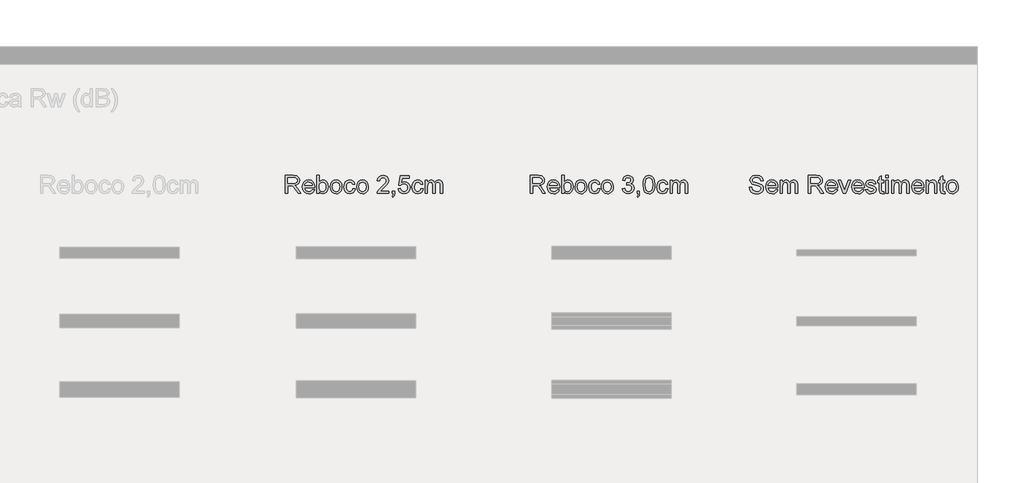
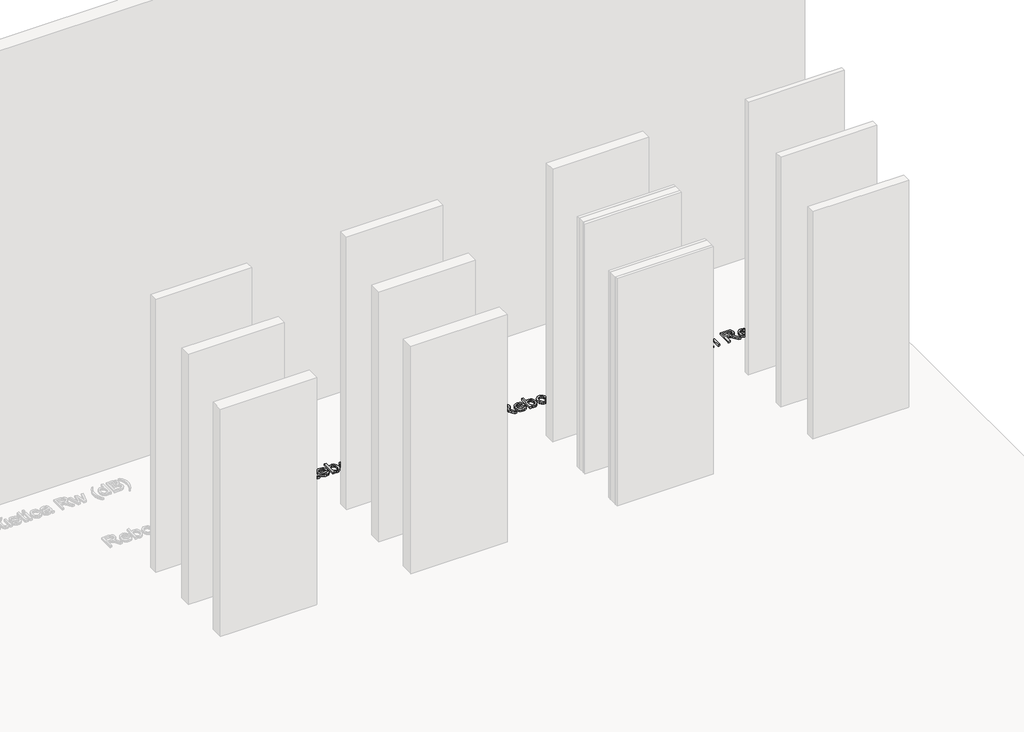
# One storey, part 26 of 26: 3 proxies.
"""IFC4 building model written with IfcOpenShell, lengths in millimetres."""

from ifc_helpers import new_model, si_unit, origin, origin_with_axes, place, context, project, spatial, polyline, outline, extrude, element, save

model = new_model("IFC4")

# Units and contexts
model_context = context("Model", 3, world=origin())
ifc_project = project(units=[si_unit("LENGTHUNIT", "METRE", prefix="MILLI")], contexts=[model_context])

# Site, building, storey
site = spatial("IfcSite", under=ifc_project)
building = spatial("IfcBuilding", under=site)
storey = spatial("IfcBuildingStorey", under=building, Name="Catálogo Celucon", Elevation=0.0)

# Proxies
placement = place(None, origin())
element("IfcBuildingElementProxy", 1, Name="Legenda Tabela de Módulos", ObjectType="Legenda Tabela de Módulos", at=placement, inside=storey, context=model_context, shape_type="SweptSolid", body=[
    extrude(outline(polyline([(16458.7723044, 1127.4713313), (16458.7723044, 1278.1557966), (16523.7034766, 1278.1557966), (16553.8514061, 1274.0907005), (16563.1312294, 1268.462106), (16570.3325195, 1259.7065145), (16574.954037, 1248.8493971), (16576.4945429, 1236.9162249), (16573.9423616, 1222.0721864), (16566.2858175, 1209.7665337), (16553.2949846, 1200.7442277), (16534.7399364, 1195.7502297), (16545.4453025, 1187.693614), (16560.7124053, 1168.3062328), (16585.8387456, 1127.4713313), (16563.9497669, 1127.4713313), (16544.3416565, 1158.7045127), (16530.1781997, 1179.3794809), (16520.2269917, 1189.1467478), (16511.2690651, 1192.7335973), (16500.3429699, 1193.3957849), (16477.6078626, 1193.3957849), (16477.6078626, 1127.4713313), (16458.7723044, 1127.4713313)]), holes=[polyline([(16477.6078626, 1212.231343), (16519.7671392, 1212.231343), (16541.2698419, 1214.8984875), (16553.4835241, 1223.4333498), (16557.6589847, 1236.2172491), (16555.6678234, 1245.405102), (16549.6943395, 1252.8087271), (16539.4166363, 1257.6923606), (16524.512817, 1259.3202384), (16477.6078626, 1259.3202384), (16477.6078626, 1212.231343)])]), origin_with_axes(), (0.0, 0.0, 1.0), 20.0),
    extrude(outline(polyline([(16684.5782731, 1160.4335581), (16703.0459492, 1158.0791133), (16696.3918836, 1144.1639769), (16685.7738896, 1133.7621135), (16671.4310903, 1127.2781933), (16653.6026091, 1125.1168866), (16631.5020982, 1128.8462903), (16614.496753, 1140.0345015), (16603.6534312, 1157.9549532), (16600.0389906, 1181.8810784), (16603.6902194, 1206.6119456), (16614.6439058, 1225.1072129), (16631.4193248, 1236.6403134), (16652.5357513, 1240.4846803), (16672.9945888, 1236.6495105), (16689.3423449, 1225.1440011), (16700.0615065, 1206.685522), (16703.6345604, 1181.991443), (16703.5241958, 1176.9146715), (16618.8745487, 1176.9146715), (16622.1349029, 1162.815594), (16629.7086735, 1152.4505188), (16640.6393673, 1146.0769633), (16653.9704911, 1143.9524447), (16672.4381672, 1147.8887821), (16684.5782731, 1160.4335581)]), holes=[polyline([(16618.8745487, 1195.7502297), (16684.7990023, 1195.7502297), (16682.2514195, 1205.7014376), (16677.2574214, 1212.8199542), (16666.2761438, 1219.4418301), (16652.4621749, 1221.6491221), (16639.7656475, 1219.8878871), (16629.2672151, 1214.6041819), (16621.969356, 1206.3682237), (16618.8745487, 1195.7502297)])]), origin_with_axes(), (0.0, 0.0, 1.0), 20.0),
    extrude(outline(polyline([(16741.3056767, 1127.4713313), (16722.4701186, 1127.4713313), (16722.4701186, 1278.1557966), (16741.3056767, 1278.1557966), (16741.3056767, 1222.2745215), (16754.4942463, 1235.9321406), (16770.8833891, 1240.4846803), (16789.7557355, 1236.382796), (16804.3974389, 1224.8496955), (16813.3921537, 1206.9154482), (16816.6479093, 1184.4562524), (16813.2771906, 1159.311518), (16803.1650342, 1140.6047186), (16788.3255942, 1128.9888446), (16770.7730245, 1125.1168866), (16754.0251967, 1130.1108847), (16741.3056767, 1145.0928789), (16741.3056767, 1127.4713313)]), holes=[polyline([(16741.3056767, 1183.5733356), (16742.5932637, 1167.8647744), (16746.4560247, 1157.2329848), (16756.3244592, 1147.2725797), (16769.1543438, 1143.9524447), (16780.0252567, 1146.39886), (16789.3142771, 1153.7381058), (16795.6878327, 1165.9241969), (16797.8123512, 1182.911148), (16795.7752046, 1200.1464195), (16789.663765, 1212.1945548), (16780.6644517, 1219.2854803), (16769.9636842, 1221.6491221), (16759.0927712, 1219.2027068), (16749.8037508, 1211.863461), (16743.4301953, 1199.8980991), (16741.3056767, 1183.5733356)])]), origin_with_axes(), (0.0, 0.0, 1.0), 20.0),
    extrude(outline(polyline([(16833.1290227, 1182.8007834), (16837.2033158, 1209.4814251), (16849.4261951, 1228.2342098), (16864.527751, 1237.4220627), (16882.6091511, 1240.4846803), (16902.3966039, 1236.7552765), (16918.2017341, 1225.5670654), (16928.5622108, 1207.8029635), (16932.015703, 1184.3458878), (16930.4889928, 1165.3171916), (16925.9088619, 1150.831838), (16918.4086677, 1139.9839177), (16908.1217674, 1131.8675212), (16895.9034867, 1126.8045452), (16882.6091511, 1125.1168866), (16862.582575, 1128.8324947), (16846.7958388, 1139.9793192), (16836.5457268, 1158.1159015), (16833.1290227, 1182.8007834)]), holes=[polyline([(16851.9645809, 1182.8375716), (16854.1442817, 1165.7908397), (16860.6833842, 1153.6461353), (16870.5242275, 1146.3758674), (16882.6091511, 1143.9524447), (16894.6388923, 1146.3896629), (16904.4613416, 1153.7013176), (16911.0004441, 1166.0069703), (16913.1801449, 1183.4261828), (16910.9866485, 1199.9762741), (16904.4061593, 1211.9554315), (16894.5699144, 1219.2256995), (16882.6091511, 1221.6491221), (16870.5242275, 1219.2348965), (16860.6833842, 1211.9922197), (16854.1442817, 1199.8751065), (16851.9645809, 1182.8375716)])]), origin_with_axes(), (0.0, 0.0, 1.0), 20.0),
    extrude(outline(polyline([(17023.839049, 1167.4968924), (17042.6746072, 1165.1424477), (17037.4230917, 1148.3900213), (17027.5546572, 1135.7302821), (17013.9982057, 1127.7702355), (16997.6826392, 1125.1168866), (16977.646866, 1128.8186992), (16961.9796915, 1139.9241369), (16951.8675352, 1157.9457561), (16948.4968164, 1182.3961132), (16949.9361547, 1199.1577366), (16954.2541696, 1213.6844769), (16961.519839, 1225.415314), (16971.8021408, 1233.789228), (16984.103195, 1238.8108172), (16997.4251218, 1240.4846803), (17013.3406166, 1238.1854178), (17026.0647351, 1231.2876304), (17035.1928071, 1220.1592), (17040.3201624, 1205.1680087), (17021.4846043, 1202.813564), (17012.7474069, 1216.9218385), (16997.5722746, 1221.6491221), (16985.3999791, 1219.3222685), (16975.7384782, 1212.3417076), (16969.4339005, 1200.3303605), (16967.3323746, 1182.911148), (16969.3879152, 1165.2574108), (16975.5545372, 1153.2046769), (16985.0412941, 1146.2655028), (16997.0572398, 1143.9524447), (17006.8107112, 1145.3963816), (17014.807546, 1149.7281921), (17020.6246801, 1157.0582408), (17023.839049, 1167.4968924)])), origin_with_axes(), (0.0, 0.0, 1.0), 20.0),
    extrude(outline(polyline([(17054.446831, 1182.8007834), (17058.5211241, 1209.4814251), (17070.7440034, 1228.2342098), (17085.8455593, 1237.4220627), (17103.9269594, 1240.4846803), (17123.7144122, 1236.7552765), (17139.5195424, 1225.5670654), (17149.8800191, 1207.8029635), (17153.3335113, 1184.3458878), (17151.8068011, 1165.3171916), (17147.2266702, 1150.831838), (17139.726476, 1139.9839177), (17129.4395757, 1131.8675212), (17117.221295, 1126.8045452), (17103.9269594, 1125.1168866), (17083.9003833, 1128.8324947), (17068.1136471, 1139.9793192), (17057.8635351, 1158.1159015), (17054.446831, 1182.8007834)]), holes=[polyline([(17073.2823892, 1182.8375716), (17075.46209, 1165.7908397), (17082.0011925, 1153.6461353), (17091.8420358, 1146.3758674), (17103.9269594, 1143.9524447), (17115.9567006, 1146.3896629), (17125.7791499, 1153.7013176), (17132.3182524, 1166.0069703), (17134.4979532, 1183.4261828), (17132.3044568, 1199.9762741), (17125.7239676, 1211.9554315), (17115.8877227, 1219.2256995), (17103.9269594, 1221.6491221), (17091.8420358, 1219.2348965), (17082.0011925, 1211.9922197), (17075.46209, 1199.8751065), (17073.2823892, 1182.8375716)])]), origin_with_axes(), (0.0, 0.0, 1.0), 20.0),
    extrude(outline(polyline([(17325.2079795, 1146.3068895), (17325.2079795, 1127.4713313), (17226.3212992, 1127.4713313), (17228.3446501, 1140.4575658), (17239.7857802, 1160.4519522), (17263.3670161, 1182.2857486), (17295.8877845, 1213.6660828), (17301.9854285, 1224.4818135), (17304.0179766, 1235.0032385), (17302.1003917, 1244.4348132), (17296.347637, 1252.2752982), (17287.5046735, 1257.5590034), (17276.3164623, 1259.3202384), (17264.5672311, 1257.6003901), (17255.4391591, 1252.4408451), (17249.5484486, 1244.2462737), (17247.5113021, 1233.421346), (17228.6757439, 1235.7757907), (17233.2420792, 1253.9951465), (17243.1151123, 1267.3032777), (17257.7798083, 1275.4426669), (17276.7211325, 1278.1557966), (17295.8004125, 1275.1391642), (17310.4375174, 1266.0892671), (17319.7495304, 1252.5696038), (17322.8535347, 1236.1436727), (17319.5058086, 1218.2830019), (17308.3773782, 1199.8153257), (17281.3932339, 1174.0084037), (17259.7249843, 1155.8902155), (17251.2269102, 1146.3068895), (17325.2079795, 1146.3068895)])), origin_with_axes(), (0.0, 0.0, 1.0), 20.0),
    extrude(outline(polyline([(17353.4613167, 1127.4713313), (17353.4613167, 1146.3068895), (17372.2968749, 1146.3068895), (17372.2968749, 1127.4713313), (17368.9123605, 1108.2127089), (17358.1702062, 1096.8635493), (17353.4613167, 1103.9268837), (17360.3774982, 1112.0570758), (17362.8423076, 1127.4713313), (17353.4613167, 1127.4713313)])), origin_with_axes(), (0.0, 0.0, 1.0), 20.0),
    extrude(outline(polyline([(17402.9046569, 1167.4968924), (17421.740215, 1169.8513372), (17425.1983058, 1158.5435644), (17431.2315705, 1150.4455619), (17439.812418, 1145.575724), (17450.9132572, 1143.9524447), (17464.4145265, 1146.2103205), (17474.5312813, 1152.9839477), (17480.8496546, 1163.4915772), (17482.955779, 1176.9514597), (17480.9830118, 1189.6249944), (17475.0647102, 1199.318685), (17465.154889, 1205.4715114), (17451.2075628, 1207.5224535), (17434.6712671, 1204.2483037), (17424.0946598, 1195.7502297), (17405.2591016, 1198.1046744), (17421.740215, 1275.8013518), (17494.7280029, 1275.8013518), (17494.7280029, 1256.9657937), (17436.9705296, 1256.9657937), (17428.9139139, 1215.4687046), (17442.3691979, 1223.6356849), (17456.4682754, 1226.3580117), (17474.0668303, 1222.9826943), (17488.676344, 1212.8567424), (17498.5125889, 1197.4240927), (17501.7913372, 1178.1286821), (17498.8390842, 1159.2931239), (17489.9823251, 1143.1798925), (17473.0229651, 1129.6326381), (17450.8396808, 1125.1168866), (17432.339815, 1128.0185558), (17417.6015426, 1136.7235635), (17407.4985833, 1150.2202342), (17402.9046569, 1167.4968924)])), origin_with_axes(), (0.0, 0.0, 1.0), 20.0),
    extrude(outline(polyline([(17593.6146832, 1167.4968924), (17612.4502413, 1165.1424477), (17607.1987258, 1148.3900213), (17597.3302913, 1135.7302821), (17583.7738398, 1127.7702355), (17567.4582733, 1125.1168866), (17547.4225001, 1128.8186992), (17531.7553257, 1139.9241369), (17521.6431693, 1157.9457561), (17518.2724505, 1182.3961132), (17519.7117889, 1199.1577366), (17524.0298038, 1213.6844769), (17531.2954732, 1225.415314), (17541.5777749, 1233.789228), (17553.8788292, 1238.8108172), (17567.2007559, 1240.4846803), (17583.1162507, 1238.1854178), (17595.8403692, 1231.2876304), (17604.9684412, 1220.1592), (17610.0957965, 1205.1680087), (17591.2602384, 1202.813564), (17582.523041, 1216.9218385), (17567.3479087, 1221.6491221), (17555.1756132, 1219.3222685), (17545.5141123, 1212.3417076), (17539.2095346, 1200.3303605), (17537.1080087, 1182.911148), (17539.1635493, 1165.2574108), (17545.3301713, 1153.2046769), (17554.8169282, 1146.2655028), (17566.8328739, 1143.9524447), (17576.5863453, 1145.3963816), (17584.5831802, 1149.7281921), (17590.4003142, 1157.0582408), (17593.6146832, 1167.4968924)])), origin_with_axes(), (0.0, 0.0, 1.0), 20.0),
    extrude(outline(polyline([(17628.9313547, 1127.4713313), (17628.9313547, 1238.1302355), (17647.7669128, 1238.1302355), (17647.7669128, 1219.9200767), (17660.7163591, 1234.8376916), (17679.147247, 1240.4846803), (17689.6226868, 1239.045342), (17698.0195934, 1234.727327), (17708.3938657, 1218.5957016), (17723.0907514, 1235.0124356), (17741.650398, 1240.4846803), (17755.8092563, 1238.2084104), (17766.2800976, 1231.3796009), (17772.7502222, 1219.8143107), (17774.9069304, 1203.3285988), (17774.9069304, 1127.4713313), (17756.0713722, 1127.4713313), (17756.0713722, 1195.2351949), (17754.3239328, 1210.9621502), (17747.9963624, 1218.7060662), (17737.2358141, 1221.6491221), (17727.0316872, 1219.7637269), (17718.7129556, 1214.1075412), (17713.1809301, 1204.294289), (17711.3369216, 1189.9376941), (17711.3369216, 1127.4713313), (17692.5013635, 1127.4713313), (17692.5013635, 1197.3321222), (17688.1419618, 1215.5790692), (17682.3892071, 1220.1316089), (17673.8497463, 1221.6491221), (17659.9070187, 1217.6024202), (17650.6363924, 1205.7566199), (17647.7669128, 1183.27903), (17647.7669128, 1127.4713313), (17628.9313547, 1127.4713313)])), origin_with_axes(), (0.0, 0.0, 1.0), 20.0),
])
element("IfcBuildingElementProxy", 2, Name="Legenda Tabela de Módulos", ObjectType="Legenda Tabela de Módulos", at=placement, inside=storey, context=model_context, shape_type="SweptSolid", body=[
    extrude(outline(polyline([(18508.7723044, 1127.4713313), (18508.7723044, 1278.1557966), (18573.7034766, 1278.1557966), (18603.8514061, 1274.0907005), (18613.1312294, 1268.462106), (18620.3325195, 1259.7065145), (18624.954037, 1248.8493971), (18626.4945429, 1236.9162249), (18623.9423616, 1222.0721864), (18616.2858175, 1209.7665337), (18603.2949846, 1200.7442277), (18584.7399364, 1195.7502297), (18595.4453025, 1187.693614), (18610.7124053, 1168.3062328), (18635.8387456, 1127.4713313), (18613.9497669, 1127.4713313), (18594.3416565, 1158.7045127), (18580.1781997, 1179.3794809), (18570.2269917, 1189.1467478), (18561.2690651, 1192.7335973), (18550.3429699, 1193.3957849), (18527.6078626, 1193.3957849), (18527.6078626, 1127.4713313), (18508.7723044, 1127.4713313)]), holes=[polyline([(18527.6078626, 1212.231343), (18569.7671392, 1212.231343), (18591.2698419, 1214.8984875), (18603.4835241, 1223.4333498), (18607.6589847, 1236.2172491), (18605.6678234, 1245.405102), (18599.6943395, 1252.8087271), (18589.4166363, 1257.6923606), (18574.512817, 1259.3202384), (18527.6078626, 1259.3202384), (18527.6078626, 1212.231343)])]), origin_with_axes(), (0.0, 0.0, 1.0), 20.0),
    extrude(outline(polyline([(18734.5782731, 1160.4335581), (18753.0459492, 1158.0791133), (18746.3918836, 1144.1639769), (18735.7738896, 1133.7621135), (18721.4310903, 1127.2781933), (18703.6026091, 1125.1168866), (18681.5020982, 1128.8462903), (18664.496753, 1140.0345015), (18653.6534312, 1157.9549532), (18650.0389906, 1181.8810784), (18653.6902194, 1206.6119456), (18664.6439058, 1225.1072129), (18681.4193248, 1236.6403134), (18702.5357513, 1240.4846803), (18722.9945888, 1236.6495105), (18739.3423449, 1225.1440011), (18750.0615065, 1206.685522), (18753.6345604, 1181.991443), (18753.5241958, 1176.9146715), (18668.8745487, 1176.9146715), (18672.1349029, 1162.815594), (18679.7086735, 1152.4505188), (18690.6393673, 1146.0769633), (18703.9704911, 1143.9524447), (18722.4381672, 1147.8887821), (18734.5782731, 1160.4335581)]), holes=[polyline([(18668.8745487, 1195.7502297), (18734.7990023, 1195.7502297), (18732.2514195, 1205.7014376), (18727.2574214, 1212.8199542), (18716.2761438, 1219.4418301), (18702.4621749, 1221.6491221), (18689.7656475, 1219.8878871), (18679.2672151, 1214.6041819), (18671.969356, 1206.3682237), (18668.8745487, 1195.7502297)])]), origin_with_axes(), (0.0, 0.0, 1.0), 20.0),
    extrude(outline(polyline([(18791.3056767, 1127.4713313), (18772.4701186, 1127.4713313), (18772.4701186, 1278.1557966), (18791.3056767, 1278.1557966), (18791.3056767, 1222.2745215), (18804.4942463, 1235.9321406), (18820.8833891, 1240.4846803), (18839.7557355, 1236.382796), (18854.3974389, 1224.8496955), (18863.3921537, 1206.9154482), (18866.6479093, 1184.4562524), (18863.2771906, 1159.311518), (18853.1650342, 1140.6047186), (18838.3255942, 1128.9888446), (18820.7730245, 1125.1168866), (18804.0251967, 1130.1108847), (18791.3056767, 1145.0928789), (18791.3056767, 1127.4713313)]), holes=[polyline([(18791.3056767, 1183.5733356), (18792.5932637, 1167.8647744), (18796.4560247, 1157.2329848), (18806.3244592, 1147.2725797), (18819.1543438, 1143.9524447), (18830.0252567, 1146.39886), (18839.3142771, 1153.7381058), (18845.6878327, 1165.9241969), (18847.8123512, 1182.911148), (18845.7752046, 1200.1464195), (18839.663765, 1212.1945548), (18830.6644517, 1219.2854803), (18819.9636842, 1221.6491221), (18809.0927712, 1219.2027068), (18799.8037508, 1211.863461), (18793.4301953, 1199.8980991), (18791.3056767, 1183.5733356)])]), origin_with_axes(), (0.0, 0.0, 1.0), 20.0),
    extrude(outline(polyline([(18883.1290227, 1182.8007834), (18887.2033158, 1209.4814251), (18899.4261951, 1228.2342098), (18914.527751, 1237.4220627), (18932.6091511, 1240.4846803), (18952.3966039, 1236.7552765), (18968.2017341, 1225.5670654), (18978.5622108, 1207.8029635), (18982.015703, 1184.3458878), (18980.4889928, 1165.3171916), (18975.9088619, 1150.831838), (18968.4086677, 1139.9839177), (18958.1217674, 1131.8675212), (18945.9034867, 1126.8045452), (18932.6091511, 1125.1168866), (18912.582575, 1128.8324947), (18896.7958388, 1139.9793192), (18886.5457268, 1158.1159015), (18883.1290227, 1182.8007834)]), holes=[polyline([(18901.9645809, 1182.8375716), (18904.1442817, 1165.7908397), (18910.6833842, 1153.6461353), (18920.5242275, 1146.3758674), (18932.6091511, 1143.9524447), (18944.6388923, 1146.3896629), (18954.4613416, 1153.7013176), (18961.0004441, 1166.0069703), (18963.1801449, 1183.4261828), (18960.9866485, 1199.9762741), (18954.4061593, 1211.9554315), (18944.5699144, 1219.2256995), (18932.6091511, 1221.6491221), (18920.5242275, 1219.2348965), (18910.6833842, 1211.9922197), (18904.1442817, 1199.8751065), (18901.9645809, 1182.8375716)])]), origin_with_axes(), (0.0, 0.0, 1.0), 20.0),
    extrude(outline(polyline([(19073.839049, 1167.4968924), (19092.6746072, 1165.1424477), (19087.4230917, 1148.3900213), (19077.5546572, 1135.7302821), (19063.9982057, 1127.7702355), (19047.6826392, 1125.1168866), (19027.646866, 1128.8186992), (19011.9796915, 1139.9241369), (19001.8675352, 1157.9457561), (18998.4968164, 1182.3961132), (18999.9361547, 1199.1577366), (19004.2541696, 1213.6844769), (19011.519839, 1225.415314), (19021.8021408, 1233.789228), (19034.103195, 1238.8108172), (19047.4251218, 1240.4846803), (19063.3406166, 1238.1854178), (19076.0647351, 1231.2876304), (19085.1928071, 1220.1592), (19090.3201624, 1205.1680087), (19071.4846043, 1202.813564), (19062.7474069, 1216.9218385), (19047.5722746, 1221.6491221), (19035.3999791, 1219.3222685), (19025.7384782, 1212.3417076), (19019.4339005, 1200.3303605), (19017.3323746, 1182.911148), (19019.3879152, 1165.2574108), (19025.5545372, 1153.2046769), (19035.0412941, 1146.2655028), (19047.0572398, 1143.9524447), (19056.8107112, 1145.3963816), (19064.807546, 1149.7281921), (19070.6246801, 1157.0582408), (19073.839049, 1167.4968924)])), origin_with_axes(), (0.0, 0.0, 1.0), 20.0),
    extrude(outline(polyline([(19104.446831, 1182.8007834), (19108.5211241, 1209.4814251), (19120.7440034, 1228.2342098), (19135.8455593, 1237.4220627), (19153.9269594, 1240.4846803), (19173.7144122, 1236.7552765), (19189.5195424, 1225.5670654), (19199.8800191, 1207.8029635), (19203.3335113, 1184.3458878), (19201.8068011, 1165.3171916), (19197.2266702, 1150.831838), (19189.726476, 1139.9839177), (19179.4395757, 1131.8675212), (19167.221295, 1126.8045452), (19153.9269594, 1125.1168866), (19133.9003833, 1128.8324947), (19118.1136471, 1139.9793192), (19107.8635351, 1158.1159015), (19104.446831, 1182.8007834)]), holes=[polyline([(19123.2823892, 1182.8375716), (19125.46209, 1165.7908397), (19132.0011925, 1153.6461353), (19141.8420358, 1146.3758674), (19153.9269594, 1143.9524447), (19165.9567006, 1146.3896629), (19175.7791499, 1153.7013176), (19182.3182524, 1166.0069703), (19184.4979532, 1183.4261828), (19182.3044568, 1199.9762741), (19175.7239676, 1211.9554315), (19165.8877227, 1219.2256995), (19153.9269594, 1221.6491221), (19141.8420358, 1219.2348965), (19132.0011925, 1211.9922197), (19125.46209, 1199.8751065), (19123.2823892, 1182.8375716)])]), origin_with_axes(), (0.0, 0.0, 1.0), 20.0),
    extrude(outline(polyline([(19278.6757439, 1167.4968924), (19297.5113021, 1169.8513372), (19301.7281495, 1158.014734), (19307.9039685, 1150.0224977), (19316.3422617, 1145.469958), (19327.3465319, 1143.9524447), (19340.2591899, 1146.0401751), (19350.228792, 1152.303366), (19356.6023476, 1161.6475687), (19358.7268661, 1172.9783342), (19356.6207417, 1183.734284), (19350.3023684, 1192.4576858), (19340.7374365, 1198.2380316), (19328.8916363, 1200.1648136), (19315.6846727, 1198.1046744), (19317.7816, 1216.9402326), (19320.7982324, 1216.7195034), (19342.1721763, 1222.1273687), (19349.2906929, 1228.9883679), (19351.6635318, 1238.7556349), (19349.9436835, 1246.8904255), (19344.7841385, 1253.4893088), (19336.9114638, 1257.862506), (19327.0522263, 1259.3202384), (19317.1745947, 1257.8487104), (19309.0995849, 1253.4341265), (19303.204276, 1246.0764866), (19299.8657469, 1235.7757907), (19281.0301887, 1238.1302355), (19286.5760098, 1255.0436102), (19296.4444443, 1267.6711597), (19309.9457135, 1275.5346374), (19326.3900387, 1278.1557966), (19349.1067519, 1272.9870545), (19364.9992541, 1258.8603859), (19370.4990899, 1239.8592809), (19365.2751656, 1222.4952507), (19349.8241218, 1210.0240511), (19361.6147398, 1205.2599792), (19370.3519371, 1197.1481812), (19375.7598025, 1186.1301155), (19377.5624242, 1172.6472404), (19373.9571807, 1154.2899288), (19363.14145, 1138.9492496), (19346.8166865, 1128.5749773), (19326.6843443, 1125.1168866), (19308.4741856, 1128.0691396), (19293.6485411, 1136.9258986), (19283.3386482, 1150.4731531), (19278.6757439, 1167.4968924)])), origin_with_axes(), (0.0, 0.0, 1.0), 20.0),
    extrude(outline(polyline([(19403.4613167, 1127.4713313), (19403.4613167, 1146.3068895), (19422.2968749, 1146.3068895), (19422.2968749, 1127.4713313), (19418.9123605, 1108.2127089), (19408.1702062, 1096.8635493), (19403.4613167, 1103.9268837), (19410.3774982, 1112.0570758), (19412.8423076, 1127.4713313), (19403.4613167, 1127.4713313)])), origin_with_axes(), (0.0, 0.0, 1.0), 20.0),
    extrude(outline(polyline([(19452.9046569, 1201.5995534), (19454.2888129, 1225.7188167), (19458.4412809, 1244.9544465), (19465.3206742, 1259.6007484), (19474.8856061, 1269.9520281), (19487.2050544, 1276.1048544), (19502.347997, 1278.1557966), (19524.3473403, 1273.2997542), (19539.5408667, 1259.3018443), (19548.3700346, 1237.0081954), (19551.7913372, 1201.5995534), (19550.4209767, 1177.6182458), (19546.3098954, 1158.4286012), (19539.4718888, 1143.7685037), (19529.9207525, 1133.3758374), (19517.5737131, 1127.1816243), (19502.347997, 1125.1168866), (19482.7766749, 1128.703736), (19467.9142423, 1139.4642844), (19456.6570532, 1164.9493096), (19452.9046569, 1201.5995534)]), holes=[polyline([(19471.740215, 1201.6363416), (19473.947507, 1172.0080454), (19480.5693829, 1154.8601459), (19490.4286204, 1146.67937), (19502.347997, 1143.9524447), (19514.2673737, 1146.6885671), (19524.1266111, 1154.8969341), (19530.748487, 1172.0540306), (19532.955779, 1201.6363416), (19530.8220634, 1230.5978516), (19524.4209167, 1247.8791084), (19514.5800733, 1256.4599559), (19502.1272678, 1259.3202384), (19490.3366499, 1256.8002468), (19480.8636885, 1249.2402718), (19474.0210834, 1230.8829602), (19471.740215, 1201.6363416)])]), origin_with_axes(), (0.0, 0.0, 1.0), 20.0),
    extrude(outline(polyline([(19643.6146832, 1167.4968924), (19662.4502413, 1165.1424477), (19657.1987258, 1148.3900213), (19647.3302913, 1135.7302821), (19633.7738398, 1127.7702355), (19617.4582733, 1125.1168866), (19597.4225001, 1128.8186992), (19581.7553257, 1139.9241369), (19571.6431693, 1157.9457561), (19568.2724505, 1182.3961132), (19569.7117889, 1199.1577366), (19574.0298038, 1213.6844769), (19581.2954732, 1225.415314), (19591.5777749, 1233.789228), (19603.8788292, 1238.8108172), (19617.2007559, 1240.4846803), (19633.1162507, 1238.1854178), (19645.8403692, 1231.2876304), (19654.9684412, 1220.1592), (19660.0957965, 1205.1680087), (19641.2602384, 1202.813564), (19632.523041, 1216.9218385), (19617.3479087, 1221.6491221), (19605.1756132, 1219.3222685), (19595.5141123, 1212.3417076), (19589.2095346, 1200.3303605), (19587.1080087, 1182.911148), (19589.1635493, 1165.2574108), (19595.3301713, 1153.2046769), (19604.8169282, 1146.2655028), (19616.8328739, 1143.9524447), (19626.5863453, 1145.3963816), (19634.5831802, 1149.7281921), (19640.4003142, 1157.0582408), (19643.6146832, 1167.4968924)])), origin_with_axes(), (0.0, 0.0, 1.0), 20.0),
    extrude(outline(polyline([(19678.9313547, 1127.4713313), (19678.9313547, 1238.1302355), (19697.7669128, 1238.1302355), (19697.7669128, 1219.9200767), (19710.7163591, 1234.8376916), (19729.147247, 1240.4846803), (19739.6226868, 1239.045342), (19748.0195934, 1234.727327), (19758.3938657, 1218.5957016), (19773.0907514, 1235.0124356), (19791.650398, 1240.4846803), (19805.8092563, 1238.2084104), (19816.2800976, 1231.3796009), (19822.7502222, 1219.8143107), (19824.9069304, 1203.3285988), (19824.9069304, 1127.4713313), (19806.0713722, 1127.4713313), (19806.0713722, 1195.2351949), (19804.3239328, 1210.9621502), (19797.9963624, 1218.7060662), (19787.2358141, 1221.6491221), (19777.0316872, 1219.7637269), (19768.7129556, 1214.1075412), (19763.1809301, 1204.294289), (19761.3369216, 1189.9376941), (19761.3369216, 1127.4713313), (19742.5013635, 1127.4713313), (19742.5013635, 1197.3321222), (19738.1419618, 1215.5790692), (19732.3892071, 1220.1316089), (19723.8497463, 1221.6491221), (19709.9070187, 1217.6024202), (19700.6363924, 1205.7566199), (19697.7669128, 1183.27903), (19697.7669128, 1127.4713313), (19678.9313547, 1127.4713313)])), origin_with_axes(), (0.0, 0.0, 1.0), 20.0),
])
element("IfcBuildingElementProxy", 3, Name="Legenda Tabela de Módulos", ObjectType="Legenda Tabela de Módulos", at=placement, inside=storey, context=model_context, shape_type="SweptSolid", body=[
    extrude(outline(polyline([(20342.1633857, 1179.2691163), (20360.9989438, 1179.2691163), (20367.0689968, 1160.415164), (20381.8946412, 1148.4957874), (20404.4825957, 1143.9524447), (20424.1642824, 1147.3921414), (20436.8746053, 1156.8467087), (20441.050066, 1169.4834552), (20437.923069, 1181.2372849), (20425.1207756, 1189.7905413), (20397.6951728, 1196.9826343), (20368.1726427, 1206.2716547), (20352.1513818, 1220.2879587), (20346.8722752, 1239.0131523), (20348.5047516, 1250.0450136), (20353.4021806, 1260.3319139), (20361.4358037, 1269.0507172), (20372.4768621, 1275.3782875), (20400.3991055, 1280.5102413), (20430.1975471, 1275.1391642), (20441.6202831, 1268.5080912), (20450.0631749, 1259.3570266), (20455.4066608, 1248.2561874), (20457.5311794, 1235.7757907), (20438.6956212, 1235.7757907), (20435.2375305, 1247.0145857), (20428.0270434, 1255.1263837), (20416.7606572, 1260.0376083), (20401.1348695, 1261.6746832), (20385.1411998, 1260.0560024), (20374.1691193, 1255.1999601), (20367.8231548, 1248.0538523), (20365.7078334, 1239.5649753), (20367.2069525, 1232.326897), (20371.7043099, 1226.5051644), (20402.4592447, 1215.9837394), (20435.7893534, 1206.5291721), (20446.5269092, 1199.6957641), (20454.0179063, 1191.2620693), (20458.4186947, 1181.3200584), (20459.8856241, 1169.9617018), (20458.1979655, 1158.3504263), (20453.1349895, 1147.4289296), (20444.9036299, 1138.0295446), (20433.7108202, 1130.9846044), (20420.2509377, 1126.583816), (20405.2183596, 1125.1168866), (20386.7644791, 1126.6987792), (20371.5755512, 1131.4444569), (20359.4768321, 1139.3723139), (20350.2935778, 1150.5007442), (20344.3982688, 1164.0571958), (20342.1633857, 1179.2691163)])), origin_with_axes(), (0.0, 0.0, 1.0), 20.0),
    extrude(outline(polyline([(20563.2604648, 1160.4335581), (20581.7281409, 1158.0791133), (20575.0740753, 1144.1639769), (20564.4560813, 1133.7621135), (20550.113282, 1127.2781933), (20532.2848008, 1125.1168866), (20510.1842899, 1128.8462903), (20493.1789447, 1140.0345015), (20482.3356229, 1157.9549532), (20478.7211823, 1181.8810784), (20482.3724111, 1206.6119456), (20493.3260975, 1225.1072129), (20510.1015165, 1236.6403134), (20531.217943, 1240.4846803), (20551.6767805, 1236.6495105), (20568.0245366, 1225.1440011), (20578.7436982, 1206.685522), (20582.3167521, 1181.991443), (20582.2063875, 1176.9146715), (20497.5567404, 1176.9146715), (20500.8170946, 1162.815594), (20508.3908652, 1152.4505188), (20519.321559, 1146.0769633), (20532.6526828, 1143.9524447), (20551.1203589, 1147.8887821), (20563.2604648, 1160.4335581)]), holes=[polyline([(20497.5567404, 1195.7502297), (20563.481194, 1195.7502297), (20560.9336112, 1205.7014376), (20555.9396131, 1212.8199542), (20544.9583355, 1219.4418301), (20531.1443666, 1221.6491221), (20518.4478392, 1219.8878871), (20507.9494068, 1214.6041819), (20500.6515477, 1206.3682237), (20497.5567404, 1195.7502297)])]), origin_with_axes(), (0.0, 0.0, 1.0), 20.0),
    extrude(outline(polyline([(20601.1523103, 1127.4713313), (20601.1523103, 1238.1302355), (20619.9878684, 1238.1302355), (20619.9878684, 1219.9200767), (20632.9373147, 1234.8376916), (20651.3682026, 1240.4846803), (20661.8436424, 1239.045342), (20670.240549, 1234.727327), (20680.6148212, 1218.5957016), (20695.3117069, 1235.0124356), (20713.8713536, 1240.4846803), (20728.0302119, 1238.2084104), (20738.5010532, 1231.3796009), (20744.9711778, 1219.8143107), (20747.127886, 1203.3285988), (20747.127886, 1127.4713313), (20728.2923278, 1127.4713313), (20728.2923278, 1195.2351949), (20726.5448883, 1210.9621502), (20720.217318, 1218.7060662), (20709.4567697, 1221.6491221), (20699.2526428, 1219.7637269), (20690.9339112, 1214.1075412), (20685.4018857, 1204.294289), (20683.5578772, 1189.9376941), (20683.5578772, 1127.4713313), (20664.722319, 1127.4713313), (20664.722319, 1197.3321222), (20660.3629174, 1215.5790692), (20654.6101627, 1220.1316089), (20646.0707019, 1221.6491221), (20632.1279743, 1217.6024202), (20622.857348, 1205.7566199), (20619.9878684, 1183.27903), (20619.9878684, 1127.4713313), (20601.1523103, 1127.4713313)])), origin_with_axes(), (0.0, 0.0, 1.0), 20.0),
    extrude(outline(polyline([(20836.5967872, 1127.4713313), (20836.5967872, 1278.1557966), (20901.5279593, 1278.1557966), (20931.6758888, 1274.0907005), (20940.9557122, 1268.462106), (20948.1570022, 1259.7065145), (20952.7785198, 1248.8493971), (20954.3190257, 1236.9162249), (20951.7668443, 1222.0721864), (20944.1103003, 1209.7665337), (20931.1194673, 1200.7442277), (20912.5644192, 1195.7502297), (20923.2697853, 1187.693614), (20938.5368881, 1168.3062328), (20963.6632283, 1127.4713313), (20941.7742496, 1127.4713313), (20922.1661393, 1158.7045127), (20908.0026825, 1179.3794809), (20898.0514745, 1189.1467478), (20889.0935479, 1192.7335973), (20878.1674526, 1193.3957849), (20855.4323453, 1193.3957849), (20855.4323453, 1127.4713313), (20836.5967872, 1127.4713313)]), holes=[polyline([(20855.4323453, 1212.231343), (20897.591622, 1212.231343), (20919.0943246, 1214.8984875), (20931.3080069, 1223.4333498), (20935.4834675, 1236.2172491), (20933.4923062, 1245.405102), (20927.5188223, 1252.8087271), (20917.2411191, 1257.6923606), (20902.3372997, 1259.3202384), (20855.4323453, 1259.3202384), (20855.4323453, 1212.231343)])]), origin_with_axes(), (0.0, 0.0, 1.0), 20.0),
    extrude(outline(polyline([(21062.4027558, 1160.4335581), (21080.870432, 1158.0791133), (21074.2163664, 1144.1639769), (21063.5983723, 1133.7621135), (21049.255573, 1127.2781933), (21031.4270918, 1125.1168866), (21009.326581, 1128.8462903), (20992.3212358, 1140.0345015), (20981.4779139, 1157.9549532), (20977.8634733, 1181.8810784), (20981.5147021, 1206.6119456), (20992.4683886, 1225.1072129), (21009.2438075, 1236.6403134), (21030.3602341, 1240.4846803), (21050.8190715, 1236.6495105), (21067.1668277, 1225.1440011), (21077.8859893, 1206.685522), (21081.4590432, 1181.991443), (21081.3486786, 1176.9146715), (20996.6990315, 1176.9146715), (20999.9593857, 1162.815594), (21007.5331563, 1152.4505188), (21018.46385, 1146.0769633), (21031.7949738, 1143.9524447), (21050.26265, 1147.8887821), (21062.4027558, 1160.4335581)]), holes=[polyline([(20996.6990315, 1195.7502297), (21062.623485, 1195.7502297), (21060.0759022, 1205.7014376), (21055.0819041, 1212.8199542), (21044.1006266, 1219.4418301), (21030.2866577, 1221.6491221), (21017.5901303, 1219.8878871), (21007.0916979, 1214.6041819), (20999.7938388, 1206.3682237), (20996.6990315, 1195.7502297)])]), origin_with_axes(), (0.0, 0.0, 1.0), 20.0),
    extrude(outline(polyline([(21127.4442926, 1127.4713313), (21088.5223775, 1238.1302355), (21108.4615816, 1238.1302355), (21132.0428175, 1171.8379), (21139.14294, 1149.5442511), (21146.0959097, 1170.5871012), (21169.8242984, 1238.1302355), (21189.7635026, 1238.1302355), (21151.3198341, 1127.4713313), (21127.4442926, 1127.4713313)])), origin_with_axes(), (0.0, 0.0, 1.0), 20.0),
    extrude(outline(polyline([(21283.7205641, 1160.4335581), (21302.1882403, 1158.0791133), (21295.5341747, 1144.1639769), (21284.9161806, 1133.7621135), (21270.5733813, 1127.2781933), (21252.7449001, 1125.1168866), (21230.6443893, 1128.8462903), (21213.6390441, 1140.0345015), (21202.7957222, 1157.9549532), (21199.1812816, 1181.8810784), (21202.8325104, 1206.6119456), (21213.7861968, 1225.1072129), (21230.5616158, 1236.6403134), (21251.6780424, 1240.4846803), (21272.1368798, 1236.6495105), (21288.484636, 1225.1440011), (21299.2037976, 1206.685522), (21302.7768515, 1181.991443), (21302.6664869, 1176.9146715), (21218.0168398, 1176.9146715), (21221.277194, 1162.815594), (21228.8509646, 1152.4505188), (21239.7816583, 1146.0769633), (21253.1127821, 1143.9524447), (21271.5804583, 1147.8887821), (21283.7205641, 1160.4335581)]), holes=[polyline([(21218.0168398, 1195.7502297), (21283.9412933, 1195.7502297), (21281.3937105, 1205.7014376), (21276.3997124, 1212.8199542), (21265.4184349, 1219.4418301), (21251.604466, 1221.6491221), (21238.9079386, 1219.8878871), (21228.4095062, 1214.6041819), (21221.1116471, 1206.3682237), (21218.0168398, 1195.7502297)])]), origin_with_axes(), (0.0, 0.0, 1.0), 20.0),
    extrude(outline(polyline([(21314.5490753, 1160.4335581), (21333.3846335, 1162.7880029), (21336.3552806, 1154.7313872), (21342.1034368, 1148.8084871), (21362.0794291, 1143.9524447), (21381.2828693, 1148.4038169), (21387.5368632, 1158.8516655), (21385.9641676, 1163.6525256), (21381.2460811, 1167.3129514), (21361.8586999, 1172.6840286), (21333.4949981, 1181.8994725), (21321.1157689, 1192.6600209), (21316.9035201, 1207.8535473), (21320.2880345, 1221.8882454), (21329.5218725, 1232.6120056), (21341.4964315, 1238.1854178), (21357.7016334, 1240.4846803), (21380.6206817, 1236.7874662), (21395.1888087, 1226.7810759), (21401.6635318, 1209.8768983), (21382.8279736, 1207.5224535), (21375.7462452, 1217.9151199), (21359.1731613, 1221.6491221), (21341.1469436, 1218.0806668), (21335.7390783, 1209.7665337), (21337.9831584, 1204.2850919), (21345.0097045, 1200.1280254), (21361.2333005, 1196.1181116), (21388.8796325, 1187.2521556), (21401.7187141, 1177.2089771), (21406.3724213, 1160.8382283), (21400.9093737, 1142.8120105), (21385.1456302, 1129.7338056), (21361.8219117, 1125.1168866), (21342.8300037, 1127.3425726), (21328.9700495, 1134.0196309), (21319.7178174, 1145.0744848), (21314.5490753, 1160.4335581)])), origin_with_axes(), (0.0, 0.0, 1.0), 20.0),
    extrude(outline(polyline([(21467.5879853, 1143.1798925), (21469.9424301, 1126.9195084), (21455.8525497, 1125.1168866), (21440.0704121, 1128.2438835), (21432.1977374, 1136.447652), (21429.916869, 1157.821596), (21429.916869, 1219.2946773), (21415.7902004, 1219.2946773), (21415.7902004, 1238.1302355), (21429.916869, 1238.1302355), (21429.916869, 1265.0224093), (21448.7524272, 1276.0956574), (21448.7524272, 1238.1302355), (21467.5879853, 1238.1302355), (21467.5879853, 1219.2946773), (21448.7524272, 1219.2946773), (21448.7524272, 1158.3734189), (21449.7457086, 1148.6613343), (21452.964676, 1145.2216376), (21459.3842168, 1143.9524447), (21467.5879853, 1143.1798925)])), origin_with_axes(), (0.0, 0.0, 1.0), 20.0),
    extrude(outline(polyline([(21486.4235435, 1259.3202384), (21486.4235435, 1278.1557966), (21505.2591016, 1278.1557966), (21505.2591016, 1259.3202384), (21486.4235435, 1259.3202384)])), origin_with_axes(), (0.0, 0.0, 1.0), 20.0),
    extrude(outline(polyline([(21486.4235435, 1127.4713313), (21486.4235435, 1238.1302355), (21505.2591016, 1238.1302355), (21505.2591016, 1127.4713313), (21486.4235435, 1127.4713313)])), origin_with_axes(), (0.0, 0.0, 1.0), 20.0),
    extrude(outline(polyline([(21533.5124389, 1127.4713313), (21533.5124389, 1238.1302355), (21552.347997, 1238.1302355), (21552.347997, 1219.9200767), (21565.2974432, 1234.8376916), (21583.7283312, 1240.4846803), (21594.203771, 1239.045342), (21602.6006776, 1234.727327), (21612.9749498, 1218.5957016), (21627.6718355, 1235.0124356), (21646.2314822, 1240.4846803), (21660.3903405, 1238.2084104), (21670.8611818, 1231.3796009), (21677.3313063, 1219.8143107), (21679.4880145, 1203.3285988), (21679.4880145, 1127.4713313), (21660.6524564, 1127.4713313), (21660.6524564, 1195.2351949), (21658.9050169, 1210.9621502), (21652.5774466, 1218.7060662), (21641.8168982, 1221.6491221), (21631.6127714, 1219.7637269), (21623.2940398, 1214.1075412), (21617.7620143, 1204.294289), (21615.9180058, 1189.9376941), (21615.9180058, 1127.4713313), (21597.0824476, 1127.4713313), (21597.0824476, 1197.3321222), (21592.723046, 1215.5790692), (21586.9702913, 1220.1316089), (21578.4308305, 1221.6491221), (21564.4881029, 1217.6024202), (21555.2174766, 1205.7566199), (21552.347997, 1183.27903), (21552.347997, 1127.4713313), (21533.5124389, 1127.4713313)])), origin_with_axes(), (0.0, 0.0, 1.0), 20.0),
    extrude(outline(polyline([(21785.2173, 1160.4335581), (21803.6849761, 1158.0791133), (21797.0309105, 1144.1639769), (21786.4129164, 1133.7621135), (21772.0701172, 1127.2781933), (21754.241636, 1125.1168866), (21732.1411251, 1128.8462903), (21715.1357799, 1140.0345015), (21704.2924581, 1157.9549532), (21700.6780175, 1181.8810784), (21704.3292463, 1206.6119456), (21715.2829327, 1225.1072129), (21732.0583517, 1236.6403134), (21753.1747782, 1240.4846803), (21773.6336156, 1236.6495105), (21789.9813718, 1225.1440011), (21800.7005334, 1206.685522), (21804.2735873, 1181.991443), (21804.1632227, 1176.9146715), (21719.5135756, 1176.9146715), (21722.7739298, 1162.815594), (21730.3477004, 1152.4505188), (21741.2783942, 1146.0769633), (21754.609518, 1143.9524447), (21773.0771941, 1147.8887821), (21785.2173, 1160.4335581)]), holes=[polyline([(21719.5135756, 1195.7502297), (21785.4380292, 1195.7502297), (21782.8904463, 1205.7014376), (21777.8964483, 1212.8199542), (21766.9151707, 1219.4418301), (21753.1012018, 1221.6491221), (21740.4046744, 1219.8878871), (21729.906242, 1214.6041819), (21722.6083829, 1206.3682237), (21719.5135756, 1195.7502297)])]), origin_with_axes(), (0.0, 0.0, 1.0), 20.0),
    extrude(outline(polyline([(21823.1091455, 1127.4713313), (21823.1091455, 1238.1302355), (21841.9447036, 1238.1302355), (21841.9447036, 1222.6791917), (21856.3472837, 1236.0333081), (21876.0105764, 1240.4846803), (21893.7976708, 1236.8978308), (21905.9377767, 1227.4800517), (21911.5847653, 1213.6292946), (21912.5780467, 1195.4191359), (21912.5780467, 1127.4713313), (21893.7424885, 1127.4713313), (21893.7424885, 1192.8807501), (21891.5719848, 1209.5458045), (21883.9016452, 1218.3565783), (21870.970593, 1221.6491221), (21859.9387317, 1219.8005151), (21850.5347482, 1214.254694), (21844.0922148, 1203.5401309), (21841.9447036, 1186.1852978), (21841.9447036, 1127.4713313), (21823.1091455, 1127.4713313)])), origin_with_axes(), (0.0, 0.0, 1.0), 20.0),
    extrude(outline(polyline([(21978.5025002, 1143.1798925), (21980.856945, 1126.9195084), (21966.7670646, 1125.1168866), (21950.984927, 1128.2438835), (21943.1122523, 1136.447652), (21940.8313839, 1157.821596), (21940.8313839, 1219.2946773), (21926.7047153, 1219.2946773), (21926.7047153, 1238.1302355), (21940.8313839, 1238.1302355), (21940.8313839, 1265.0224093), (21959.6669421, 1276.0956574), (21959.6669421, 1238.1302355), (21978.5025002, 1238.1302355), (21978.5025002, 1219.2946773), (21959.6669421, 1219.2946773), (21959.6669421, 1158.3734189), (21960.6602235, 1148.6613343), (21963.8791909, 1145.2216376), (21970.2987317, 1143.9524447), (21978.5025002, 1143.1798925)])), origin_with_axes(), (0.0, 0.0, 1.0), 20.0),
    extrude(outline(polyline([(21992.6291688, 1182.8007834), (21996.7034619, 1209.4814251), (22008.9263412, 1228.2342098), (22024.0278971, 1237.4220627), (22042.1092972, 1240.4846803), (22061.89675, 1236.7552765), (22077.7018802, 1225.5670654), (22088.0623569, 1207.8029635), (22091.5158491, 1184.3458878), (22089.9891389, 1165.3171916), (22085.409008, 1150.831838), (22077.9088138, 1139.9839177), (22067.6219136, 1131.8675212), (22055.4036328, 1126.8045452), (22042.1092972, 1125.1168866), (22022.0827211, 1128.8324947), (22006.295985, 1139.9793192), (21996.0458729, 1158.1159015), (21992.6291688, 1182.8007834)]), holes=[polyline([(22011.464727, 1182.8375716), (22013.6444278, 1165.7908397), (22020.1835303, 1153.6461353), (22030.0243736, 1146.3758674), (22042.1092972, 1143.9524447), (22054.1390384, 1146.3896629), (22063.9614877, 1153.7013176), (22070.5005902, 1166.0069703), (22072.680291, 1183.4261828), (22070.4867946, 1199.9762741), (22063.9063054, 1211.9554315), (22054.0700606, 1219.2256995), (22042.1092972, 1221.6491221), (22030.0243736, 1219.2348965), (22020.1835303, 1211.9922197), (22013.6444278, 1199.8751065), (22011.464727, 1182.8375716)])]), origin_with_axes(), (0.0, 0.0, 1.0), 20.0),
])

save(model, "model.ifc")
